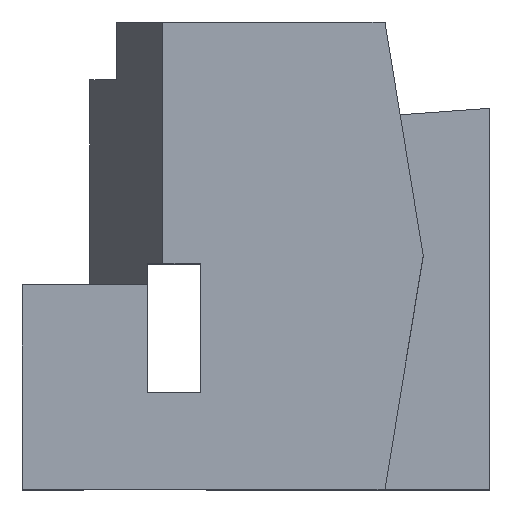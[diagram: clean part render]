
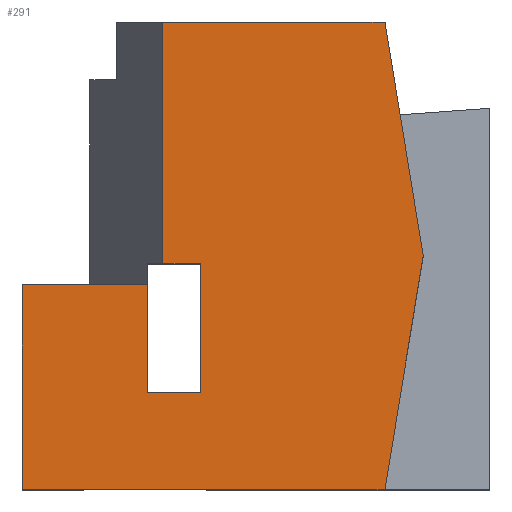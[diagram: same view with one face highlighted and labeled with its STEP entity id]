
A CAD part, top view. The second image highlights one B-rep face of the part: STEP entity #291.
In plain terms, the highlighted planar face has unit normal (0, 0, 1).
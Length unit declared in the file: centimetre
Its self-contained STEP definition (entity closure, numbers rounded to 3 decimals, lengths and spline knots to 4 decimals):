
#6 = ORIENTED_EDGE ( 'NONE', *, *, #281, .T. ) ;
#7 = CARTESIAN_POINT ( 'NONE',  ( 381.2752, 207.9686, 1000. ) ) ;
#13 = LINE ( 'NONE', #1002, #1086 ) ;
#14 = CARTESIAN_POINT ( 'NONE',  ( 0., 437.6282, 1000. ) ) ;
#30 = LINE ( 'NONE', #914, #148 ) ;
#64 = CARTESIAN_POINT ( 'NONE',  ( 267.8269, 207.9686, 1000. ) ) ;
#71 = VERTEX_POINT ( 'NONE', #1120 ) ;
#73 = DIRECTION ( 'NONE',  ( 0., 1., 0. ) ) ;
#102 = DIRECTION ( 'NONE',  ( 1., 0., 0. ) ) ;
#105 = CARTESIAN_POINT ( 'NONE',  ( 776.0384, 0., 1000. ) ) ;
#113 = ORIENTED_EDGE ( 'NONE', *, *, #269, .T. ) ;
#122 = DIRECTION ( 'NONE',  ( 1., 0., 0. ) ) ;
#124 = VERTEX_POINT ( 'NONE', #105 ) ;
#125 = VECTOR ( 'NONE', #377, 100. ) ;
#134 = DIRECTION ( 'NONE',  ( -1., 0., 0. ) ) ;
#143 = DIRECTION ( 'NONE',  ( -1., 0., 0. ) ) ;
#148 = VECTOR ( 'NONE', #122, 100. ) ;
#149 = DIRECTION ( 'NONE',  ( 0., -1., 0. ) ) ;
#165 = LINE ( 'NONE', #244, #829 ) ;
#192 = EDGE_CURVE ( 'NONE', #71, #631, #462, .T. ) ;
#202 = CARTESIAN_POINT ( 'NONE',  ( 0., 1000., 1000. ) ) ;
#209 = LINE ( 'NONE', #839, #580 ) ;
#244 = CARTESIAN_POINT ( 'NONE',  ( 300.4975, 437.6282, 1000. ) ) ;
#263 = EDGE_CURVE ( 'NONE', #71, #407, #644, .T. ) ;
#269 = EDGE_CURVE ( 'NONE', #659, #1126, #209, .T. ) ;
#270 = VECTOR ( 'NONE', #149, 100. ) ;
#277 = CARTESIAN_POINT ( 'NONE',  ( 267.8269, 437.6282, 1000. ) ) ;
#281 = EDGE_CURVE ( 'NONE', #845, #443, #924, .T. ) ;
#291 = ADVANCED_FACE ( 'NONE', ( #939 ), #915, .T. ) ;
#299 = AXIS2_PLACEMENT_3D ( 'NONE', #503, #676, #770 ) ;
#300 = CARTESIAN_POINT ( 'NONE',  ( 857.7135, 500., 1000. ) ) ;
#307 = CARTESIAN_POINT ( 'NONE',  ( 0., 1000., 1000. ) ) ;
#328 = DIRECTION ( 'NONE',  ( 0., 1., 0. ) ) ;
#366 = VECTOR ( 'NONE', #328, 100. ) ;
#377 = DIRECTION ( 'NONE',  ( -0.161, -0.987, 0. ) ) ;
#394 = DIRECTION ( 'NONE',  ( 1., 0., 0. ) ) ;
#403 = ORIENTED_EDGE ( 'NONE', *, *, #954, .F. ) ;
#407 = VERTEX_POINT ( 'NONE', #597 ) ;
#415 = VECTOR ( 'NONE', #134, 100. ) ;
#436 = ORIENTED_EDGE ( 'NONE', *, *, #944, .T. ) ;
#443 = VERTEX_POINT ( 'NONE', #691 ) ;
#445 = VECTOR ( 'NONE', #713, 100. ) ;
#455 = ORIENTED_EDGE ( 'NONE', *, *, #263, .T. ) ;
#462 = LINE ( 'NONE', #14, #859 ) ;
#487 = CARTESIAN_POINT ( 'NONE',  ( 381.2752, 207.9686, 1000. ) ) ;
#489 = CARTESIAN_POINT ( 'NONE',  ( 857.7135, 500., 1000. ) ) ;
#502 = ORIENTED_EDGE ( 'NONE', *, *, #996, .T. ) ;
#503 = CARTESIAN_POINT ( 'NONE',  ( 0., 0., 1000. ) ) ;
#530 = VERTEX_POINT ( 'NONE', #531 ) ;
#531 = CARTESIAN_POINT ( 'NONE',  ( 300.4975, 1000., 1000. ) ) ;
#557 = ORIENTED_EDGE ( 'NONE', *, *, #678, .F. ) ;
#580 = VECTOR ( 'NONE', #394, 100. ) ;
#597 = CARTESIAN_POINT ( 'NONE',  ( 0., 0., 1000. ) ) ;
#606 = ORIENTED_EDGE ( 'NONE', *, *, #702, .F. ) ;
#616 = VECTOR ( 'NONE', #143, 100. ) ;
#625 = EDGE_CURVE ( 'NONE', #1126, #845, #887, .T. ) ;
#631 = VERTEX_POINT ( 'NONE', #277 ) ;
#644 = LINE ( 'NONE', #202, #270 ) ;
#659 = VERTEX_POINT ( 'NONE', #826 ) ;
#676 = DIRECTION ( 'NONE',  ( 0., 0., 1. ) ) ;
#678 = EDGE_CURVE ( 'NONE', #894, #124, #719, .T. ) ;
#691 = CARTESIAN_POINT ( 'NONE',  ( 267.8269, 207.9686, 1000. ) ) ;
#702 = EDGE_CURVE ( 'NONE', #1079, #894, #13, .T. ) ;
#706 = ORIENTED_EDGE ( 'NONE', *, *, #625, .T. ) ;
#713 = DIRECTION ( 'NONE',  ( 0., -1., 0. ) ) ;
#719 = LINE ( 'NONE', #300, #125 ) ;
#760 = EDGE_LOOP ( 'NONE', ( #557, #606, #436, #403, #113, #706, #6, #502, #765, #455, #920 ) ) ;
#765 = ORIENTED_EDGE ( 'NONE', *, *, #192, .F. ) ;
#770 = DIRECTION ( 'NONE',  ( 1., 0., 0. ) ) ;
#772 = LINE ( 'NONE', #1124, #366 ) ;
#797 = EDGE_CURVE ( 'NONE', #407, #124, #30, .T. ) ;
#817 = DIRECTION ( 'NONE',  ( 0.161, -0.987, 0. ) ) ;
#826 = CARTESIAN_POINT ( 'NONE',  ( 300.4975, 483.3181, 1000. ) ) ;
#829 = VECTOR ( 'NONE', #73, 100. ) ;
#839 = CARTESIAN_POINT ( 'NONE',  ( 267.8269, 483.3181, 1000. ) ) ;
#845 = VERTEX_POINT ( 'NONE', #487 ) ;
#853 = CARTESIAN_POINT ( 'NONE',  ( 381.2752, 483.3181, 1000. ) ) ;
#859 = VECTOR ( 'NONE', #102, 100. ) ;
#887 = LINE ( 'NONE', #7, #445 ) ;
#894 = VERTEX_POINT ( 'NONE', #489 ) ;
#914 = CARTESIAN_POINT ( 'NONE',  ( 0., 0., 1000. ) ) ;
#915 = PLANE ( 'NONE',  #299 ) ;
#920 = ORIENTED_EDGE ( 'NONE', *, *, #797, .T. ) ;
#924 = LINE ( 'NONE', #64, #415 ) ;
#939 = FACE_OUTER_BOUND ( 'NONE', #760, .T. ) ;
#944 = EDGE_CURVE ( 'NONE', #1079, #530, #1018, .T. ) ;
#954 = EDGE_CURVE ( 'NONE', #659, #530, #165, .T. ) ;
#996 = EDGE_CURVE ( 'NONE', #443, #631, #772, .T. ) ;
#1002 = CARTESIAN_POINT ( 'NONE',  ( 776.0384, 1000., 1000. ) ) ;
#1018 = LINE ( 'NONE', #307, #616 ) ;
#1079 = VERTEX_POINT ( 'NONE', #1111 ) ;
#1086 = VECTOR ( 'NONE', #817, 100. ) ;
#1111 = CARTESIAN_POINT ( 'NONE',  ( 776.0384, 1000., 1000. ) ) ;
#1120 = CARTESIAN_POINT ( 'NONE',  ( 0., 437.6282, 1000. ) ) ;
#1124 = CARTESIAN_POINT ( 'NONE',  ( 267.8269, 207.9686, 1000. ) ) ;
#1126 = VERTEX_POINT ( 'NONE', #853 ) ;
